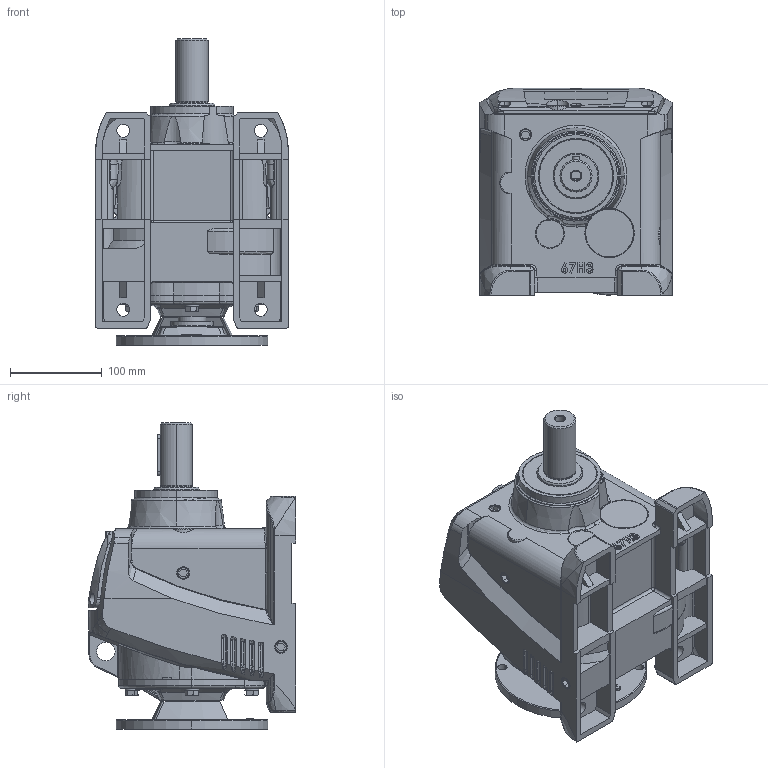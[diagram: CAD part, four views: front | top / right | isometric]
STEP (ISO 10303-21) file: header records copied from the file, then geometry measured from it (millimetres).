
FILE_DESCRIPTION (( 'STEP AP203' ), '1' );
FILE_NAME ('WINL67-56C.STEP', '2013-09-26T09:17:32', ( 'User' ), ( 'Chenta' ), 'SwSTEP 2.0', 'SolidWorks 2011', '' );
FILE_SCHEMA (( 'CONFIG_CONTROL_DESIGN' ));
Length unit declared in the file: millimetre
Products named in the file (1): WINL67-56C
Bounding box: 210 x 225.78 x 333.5 mm (x, y, z)
Surface area: 424815.2 mm2 (no closed solid volume)
Topology: 0 solids, 38 shells, 1132 faces, 3303 edges, 2177 vertices
Faces by surface type: plane 390, bspline 307, cylinder 259, cone 98, torus 46, sphere 32
Entity records: 55019 total; most frequent: CARTESIAN_POINT 27998, ORIENTED_EDGE 5899, DIRECTION 4731, EDGE_CURVE 3279, VERTEX_POINT 2177, AXIS2_PLACEMENT_3D 1701, VECTOR 1329, LINE 1329
